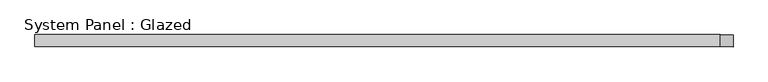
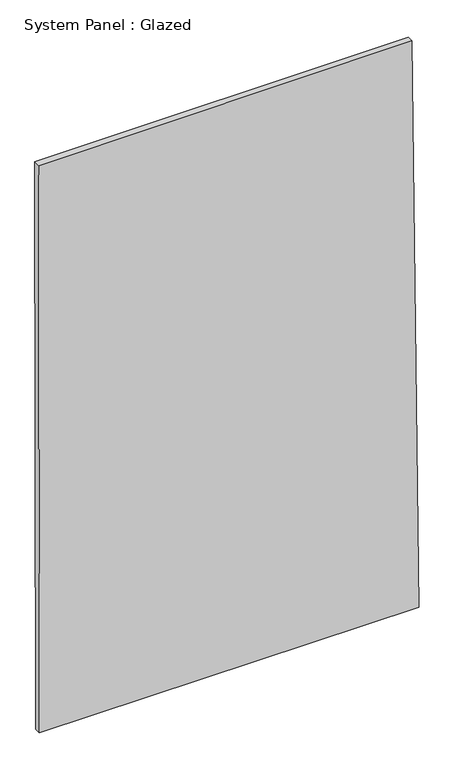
"""IFC4 building model written with IfcOpenShell, lengths in millimetres: plate geometry, System Panel : Glazed."""

from ifc_helpers import new_model, si_unit, frame, origin, place, context, project, spatial, polyline, outline, extrude, source, transform, mapped, element, save


def system_panel_glazed_003a08bf(model_context):
    return source(origin(), model_context, "Body", "SweptSolid", [
        extrude(outline(polyline([(0.0, -724.7424432), (0.0, 727.4634824), (2297.3163708, 701.2010679), (2293.8995839, -727.4634824), (0.0, -724.7424432)])), frame((0.0, -49.5, 0.0), z_axis=(0.0, 1.0, 0.0), x_axis=(0.0, 0.0, 1.0)), (0.0, 0.0, 1.0), 25.0),
    ])


if __name__ == "__main__":
    model = new_model("IFC4")
    model_context = context("Model", 3, world=origin())
    ifc_project = project(units=[si_unit("LENGTHUNIT", "METRE", prefix="MILLI")], contexts=[model_context])
    site = spatial("IfcSite", under=ifc_project)
    building = spatial("IfcBuilding", under=site)
    placement = place(None, origin())
    system_panel_glazed_shape = system_panel_glazed_003a08bf(model_context)
    element("IfcPlate", 1, ObjectType="System Panel : Glazed", at=placement, inside=building, context=model_context, shape_type="MappedRepresentation", body=[
        mapped(system_panel_glazed_shape, transform((0.0, 0.0, 0.0), x_axis=(1.0, 0.0, 0.0), y_axis=(0.0, 1.0, 0.0), z_axis=(0.0, 0.0, 1.0))),
    ])
    save(model, "model.ifc")
